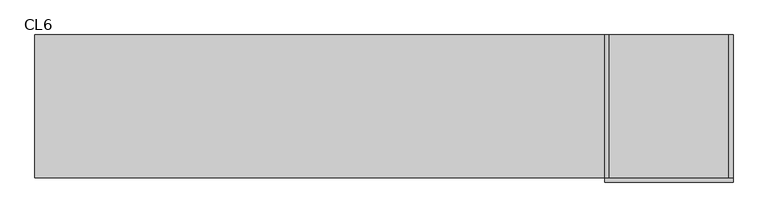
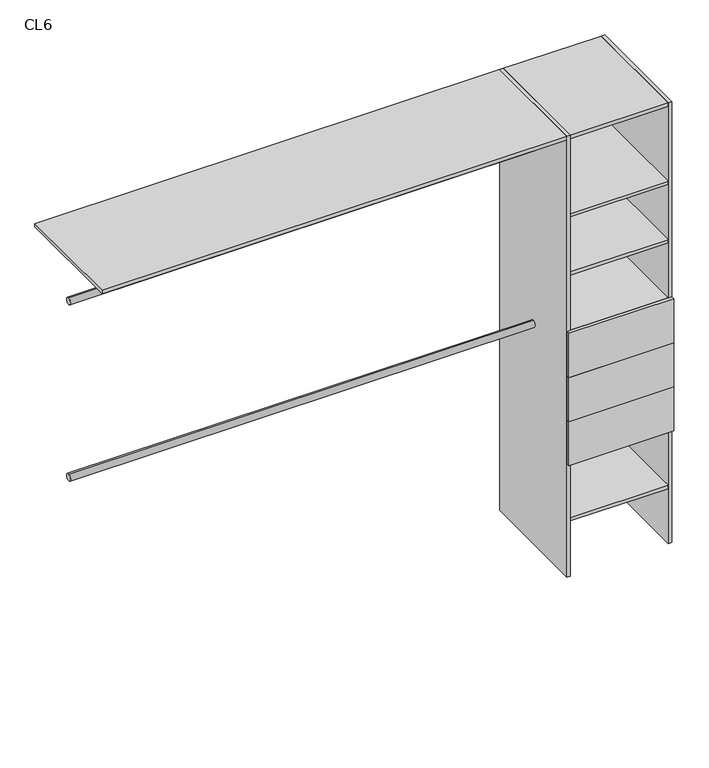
"""IFC4 building model written with IfcOpenShell, lengths in millimetres: furniture geometry, Closet 1estantes-1tubos_sin laterales : CL6."""

from ifc_helpers import new_model, si_unit, point, frame, frame_2d, origin, origin_with_axes, place, context, project, spatial, polyline, circle_curve, trimmed, segment, composite_curve, outline, extrude, source, transform, mapped, element, save


def cl6_7cf1620b(model_context):
    return source(origin(), model_context, "Body", "SweptSolid", [
        extrude(outline(polyline([(225.0, 100.0), (210.0, 100.0), (210.0, 600.0), (225.0, 600.0), (225.0, 100.0)])), origin_with_axes(), (0.0, 0.0, 1.0), 2000.0),
        extrude(outline(polyline([(-210.0, 100.0), (-225.0, 100.0), (-225.0, 600.0), (-210.0, 600.0), (-210.0, 100.0)])), origin_with_axes(), (0.0, 0.0, 1.0), 2000.0),
        extrude(outline(polyline([(225.0, 100.0), (225.0, 85.0), (-225.0, 85.0), (-225.0, 100.0), (225.0, 100.0)])), frame((0.0, 0.0, 915.0), z_axis=(0.0, 0.0, 1.0), x_axis=(1.0, 0.0, 0.0)), (0.0, 0.0, 1.0), 200.0),
        extrude(outline(polyline([(225.0, 100.0), (225.0, 85.0), (-225.0, 85.0), (-225.0, 100.0), (225.0, 100.0)])), frame((0.0, 0.0, 715.0), z_axis=(0.0, 0.0, 1.0), x_axis=(1.0, 0.0, 0.0)), (0.0, 0.0, 1.0), 200.0),
        extrude(outline(polyline([(225.0, 100.0), (225.0, 85.0), (-225.0, 85.0), (-225.0, 100.0), (225.0, 100.0)])), frame((0.0, 0.0, 515.0), z_axis=(0.0, 0.0, 1.0), x_axis=(1.0, 0.0, 0.0)), (0.0, 0.0, 1.0), 200.0),
        extrude(outline(polyline([(210.0, 100.0), (-210.0, 100.0), (-210.0, 600.0), (210.0, 600.0), (210.0, 100.0)])), frame((0.0, 0.0, 1100.0), z_axis=(0.0, 0.0, 1.0), x_axis=(1.0, 0.0, 0.0)), (0.0, 0.0, 1.0), 15.0),
        extrude(outline(composite_curve([segment(trimmed(circle_curve(frame_2d((350.0, 1000.0)), 15.0), [point((350.0, 1015.0))], [point((350.0, 985.0))], False, "CARTESIAN"), True, "CONTINUOUS"), segment(trimmed(circle_curve(frame_2d((350.0, 1000.0)), 15.0), [point((350.0, 985.0))], [point((350.0, 1015.0))], False, "CARTESIAN"), True, "CONTINUOUS")], self_intersect=False)), frame((-2220.0, 0.0, 0.0), z_axis=(1.0, 0.0, 0.0), x_axis=(0.0, 1.0, 0.0)), (0.0, 0.0, 1.0), 1995.0),
        extrude(outline(composite_curve([segment(trimmed(circle_curve(frame_2d((350.0, 1800.0)), 15.0), [point((350.0, 1815.0))], [point((350.0, 1785.0))], False, "CARTESIAN"), True, "CONTINUOUS"), segment(trimmed(circle_curve(frame_2d((350.0, 1800.0)), 15.0), [point((350.0, 1785.0))], [point((350.0, 1815.0))], False, "CARTESIAN"), True, "CONTINUOUS")], self_intersect=False)), frame((-2220.0, 0.0, 0.0), z_axis=(1.0, 0.0, 0.0), x_axis=(0.0, 1.0, 0.0)), (0.0, 0.0, 1.0), 1995.0),
        extrude(outline(polyline([(210.0, 100.0), (-210.0, 100.0), (-210.0, 600.0), (210.0, 600.0), (210.0, 100.0)])), frame((0.0, 0.0, 250.0), z_axis=(0.0, 0.0, 1.0), x_axis=(1.0, 0.0, 0.0)), (0.0, 0.0, 1.0), 15.0),
        extrude(outline(polyline([(210.0, 100.0), (-210.0, 100.0), (-210.0, 600.0), (210.0, 600.0), (210.0, 100.0)])), frame((0.0, 0.0, 515.0), z_axis=(0.0, 0.0, 1.0), x_axis=(1.0, 0.0, 0.0)), (0.0, 0.0, 1.0), 15.0),
        extrude(outline(polyline([(210.0, 100.0), (-210.0, 100.0), (-210.0, 600.0), (210.0, 600.0), (210.0, 100.0)])), frame((0.0, 0.0, 1365.0), z_axis=(0.0, 0.0, 1.0), x_axis=(1.0, 0.0, 0.0)), (0.0, 0.0, 1.0), 15.0),
        extrude(outline(polyline([(210.0, 100.0), (-210.0, 100.0), (-210.0, 600.0), (210.0, 600.0), (210.0, 100.0)])), frame((0.0, 0.0, 1630.0), z_axis=(0.0, 0.0, 1.0), x_axis=(1.0, 0.0, 0.0)), (0.0, 0.0, 1.0), 15.0),
        extrude(outline(polyline([(-210.0, 100.0), (-2220.0, 100.0), (-2220.0, 600.0), (-210.0, 600.0), (-210.0, 100.0)])), frame((0.0, 0.0, 1985.0), z_axis=(0.0, 0.0, 1.0), x_axis=(1.0, 0.0, 0.0)), (0.0, 0.0, 1.0), 15.0),
        extrude(outline(polyline([(210.0, 100.0), (-210.0, 100.0), (-210.0, 600.0), (210.0, 600.0), (210.0, 100.0)])), frame((0.0, 0.0, 1985.0), z_axis=(0.0, 0.0, 1.0), x_axis=(1.0, 0.0, 0.0)), (0.0, 0.0, 1.0), 15.0),
    ])


if __name__ == "__main__":
    model = new_model("IFC4")
    model_context = context("Model", 3, world=origin())
    ifc_project = project(units=[si_unit("LENGTHUNIT", "METRE", prefix="MILLI")], contexts=[model_context])
    site = spatial("IfcSite", under=ifc_project)
    building = spatial("IfcBuilding", under=site)
    placement = place(None, origin())
    cl6_shape = cl6_7cf1620b(model_context)
    element("IfcFurniture", 1, ObjectType="Closet 1estantes-1tubos_sin laterales : CL6", at=placement, inside=building, context=model_context, shape_type="MappedRepresentation", body=[
        mapped(cl6_shape, transform((0.0, 0.0, 0.0), x_axis=(1.0, 0.0, 0.0), y_axis=(0.0, 1.0, 0.0), z_axis=(0.0, 0.0, 1.0))),
    ])
    save(model, "model.ifc")
